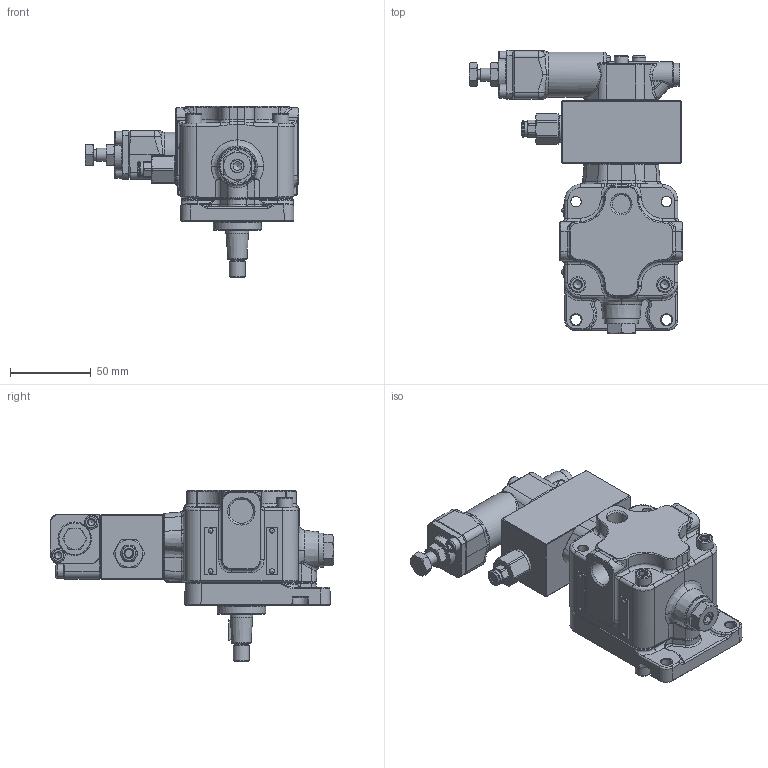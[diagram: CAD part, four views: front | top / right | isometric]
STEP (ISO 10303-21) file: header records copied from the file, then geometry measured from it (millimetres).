
FILE_DESCRIPTION(/* description */ (''),/* implementation_level */ '2;1');
FILE_NAME(/* name */ 'W:\Tecnico\A-Archivio\Modelli 3D\23\2300811020_Semplifica_1.stp',/* time_stamp */ '2022-04-13T13:37:15+02:00',/* author */ ('marcop'),/* organization */ (''),/* preprocessor_version */ 'ST-DEVELOPER v18.1',/* originating_system */ 'Autodesk Inventor 2022',/* authorisation */ '');
FILE_SCHEMA (('AUTOMOTIVE_DESIGN { 1 0 10303 214 3 1 1 }'));
Products named in the file (1): 2300811020_Semplifica_1
Bounding box: 132 x 175 x 106 mm (x, y, z)
Volume: 559914.2 mm3; surface area: 80612.4 mm2
Topology: 1 solids, 1 shells, 1189 faces, 2844 edges, 1703 vertices
Faces by surface type: plane 473, bspline 249, cylinder 212, cone 211, torus 34, sphere 10
Full cylindrical faces by diameter (mm): 2 x2, 2.5 x1, 4 x1, 4.917 x3, 5 x3, 5.5 x6, 6 x2, 6.5 x9, 8 x1, 8.376 x1, 8.5 x5, 8.8 x1, 10 x4, 11.445 x2, 14 x3, 14.95 x2, 16 x1, 16.5 x1, 20 x2, 21 x1, 22 x2, 22.8 x1, 28 x1, 30 x1
Entity records: 58289 total; most frequent: CARTESIAN_POINT 31385, ORIENTED_EDGE 5662, DIRECTION 4908, EDGE_CURVE 2831, AXIS2_PLACEMENT_3D 1822, VERTEX_POINT 1703, EDGE_LOOP 1272, LINE 1264
